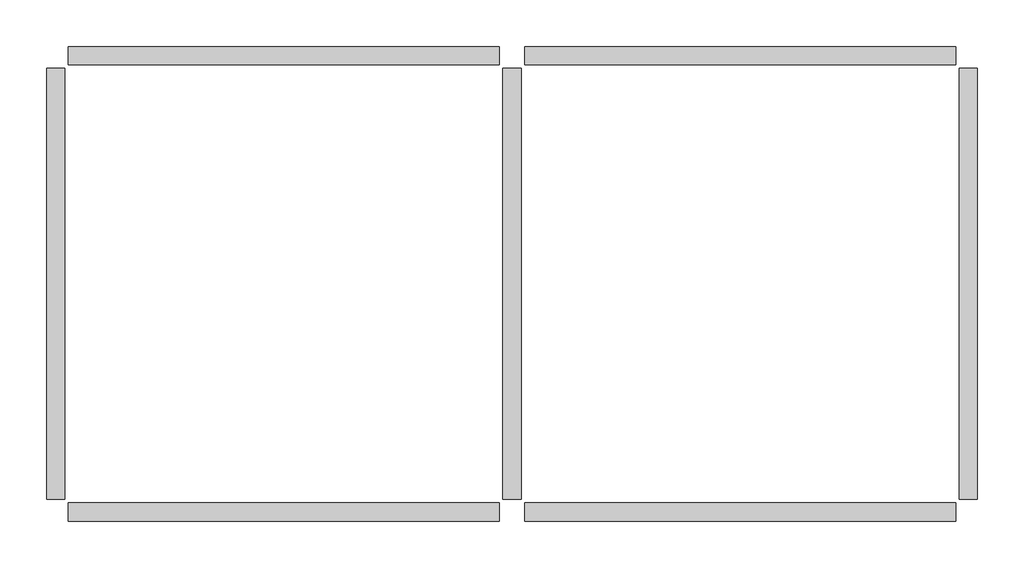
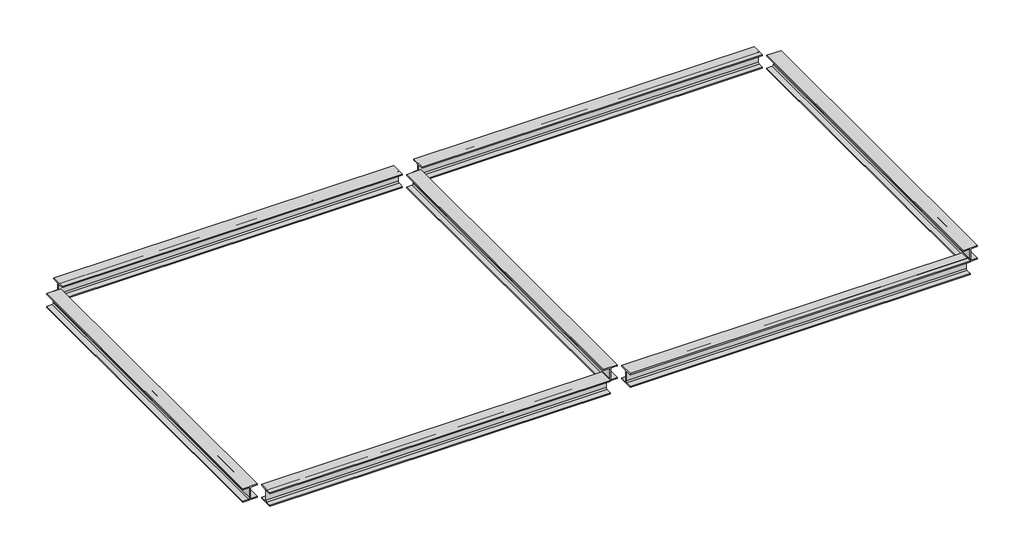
# One storey: 7 beams.
"""IFC4 building model written with IfcOpenShell, lengths in millimetres."""

import ifcopenshell
import ifcopenshell.guid

model = None  # the IFC model being written
_history = None  # IfcOwnerHistory: only IFC2X3 demands one
_inside = {}  # id of a spatial element -> (the spatial element, [elements in it])
_under = {}  # id of a project, library or spatial element -> (it, [spatial elements below it])
_declared = {}  # id of a project -> (the project, [libraries it declares])
_typed = {}  # id of a type object -> (the type object, [elements of that type])
_made_of = {}  # id of a material, layer set ... -> (it, [elements and type objects made of it])


def new_model(schema):
    """Start an empty IFC model of exactly this schema.

    Asked for "IFC4X3", IfcOpenShell would pick the latest addendum, in which some entities
    have other attributes; the version numbers below select the first issue.
    IFC2X3 requires an IfcOwnerHistory on every rooted entity: one is made here for all.
    """
    global model, _history
    if schema == "IFC4X3":
        model = ifcopenshell.file(schema_version=(4, 3, 0, 0))
    else:
        model = ifcopenshell.file(schema=schema)
    _inside.clear()
    _under.clear()
    _declared.clear()
    _typed.clear()
    _made_of.clear()
    _history = None
    if model.schema == "IFC2X3":
        org = make("IfcOrganization", Name="unknown")
        user = make(
            "IfcPersonAndOrganization",
            ThePerson=make("IfcPerson", FamilyName="unknown"),
            TheOrganization=org,
        )
        app = make(
            "IfcApplication",
            ApplicationDeveloper=org,
            Version="unknown",
            ApplicationFullName="unknown",
            ApplicationIdentifier="unknown",
        )
        _history = make(
            "IfcOwnerHistory",
            OwningUser=user,
            OwningApplication=app,
            ChangeAction="ADDED",
            CreationDate=0,
        )
    return model


def make(cls, **values):
    """One entity of the class cls with the attributes given. An attribute that is None is left unset."""
    return model.create_entity(
        cls, **{name: value for name, value in values.items() if value is not None}
    )


def rooted(cls, **values):
    """An entity with a GlobalId (a new one), such as an element, a storey or a relation."""
    return make(cls, GlobalId=ifcopenshell.guid.new(), OwnerHistory=_history, **values)


def si_unit(unit_type, name, prefix=None):
    """IfcSIUnit, for example si_unit("LENGTHUNIT", "METRE", prefix="MILLI")."""
    return make("IfcSIUnit", UnitType=unit_type, Prefix=prefix, Name=name)


def assignment(units):
    """IfcUnitAssignment: the units of a project."""
    return None if units is None else make("IfcUnitAssignment", Units=units)


def point(xyz):
    """IfcCartesianPoint."""
    return None if xyz is None else make("IfcCartesianPoint", Coordinates=xyz)


def direction(xyz):
    """IfcDirection."""
    return None if xyz is None else make("IfcDirection", DirectionRatios=xyz)


def frame(location, z_axis=None, x_axis=None):
    """IfcAxis2Placement3D, a coordinate frame: its origin and axes. An axis left out is left unset."""
    return make(
        "IfcAxis2Placement3D",
        Location=point(location),
        Axis=direction(z_axis),
        RefDirection=direction(x_axis),
    )


def frame_2d(location, x_axis=None):
    """IfcAxis2Placement2D, a coordinate frame in the plane: its origin and x axis."""
    return make(
        "IfcAxis2Placement2D", Location=point(location), RefDirection=direction(x_axis)
    )


def origin():
    """The frame at (0, 0, 0) with its axes left unset."""
    return frame((0.0, 0.0, 0.0))


def place(relative_to, where):
    """IfcLocalPlacement: puts the frame where relative to a parent placement (None: the world)."""
    return make(
        "IfcLocalPlacement", PlacementRelTo=relative_to, RelativePlacement=where
    )


def context(
    kind, dimensions, precision=None, world=None, true_north=None, identifier=None
):
    """IfcGeometricRepresentationContext, for example the 3D "Model" context."""
    return make(
        "IfcGeometricRepresentationContext",
        ContextIdentifier=identifier,
        ContextType=kind,
        CoordinateSpaceDimension=dimensions,
        Precision=precision,
        WorldCoordinateSystem=world,
        TrueNorth=true_north,
    )


def project(units=None, contexts=None):
    """IfcProject with its units and contexts."""
    return rooted(
        "IfcProject",
        Name="project",
        RepresentationContexts=contexts,
        UnitsInContext=assignment(units),
    )


def spatial(cls, under=None, at=None, **own):
    """A site, building, storey or space (cls), placed at a placement, below another one or the project."""
    s = rooted(cls, ObjectPlacement=at, **own)
    if under is not None:
        _under.setdefault(under.id(), (under, []))[1].append(s)
    return s


def polyline(points):
    """IfcPolyline through the points."""
    return make("IfcPolyline", Points=[point(p) for p in points])


def circle_curve(where, radius):
    """IfcCircle in the frame where."""
    return make("IfcCircle", Position=where, Radius=radius)


def trimmed(basis, trim1, trim2, sense, master):
    """IfcTrimmedCurve: the piece of a basis curve between two trims."""
    return make(
        "IfcTrimmedCurve",
        BasisCurve=basis,
        Trim1=trim1,
        Trim2=trim2,
        SenseAgreement=sense,
        MasterRepresentation=master,
    )


def segment(curve, same_sense, transition):
    """IfcCompositeCurveSegment."""
    return make(
        "IfcCompositeCurveSegment",
        Transition=transition,
        SameSense=same_sense,
        ParentCurve=curve,
    )


def composite_curve(segments, self_intersect=None):
    """IfcCompositeCurve: segments joined end to end."""
    return make("IfcCompositeCurve", Segments=segments, SelfIntersect=self_intersect)


def outline(outer, holes=None, kind="AREA"):
    """IfcArbitraryClosedProfileDef: a profile drawn as a closed curve; with holes, ...WithVoids."""
    if holes is None:
        return make("IfcArbitraryClosedProfileDef", ProfileType=kind, OuterCurve=outer)
    return make(
        "IfcArbitraryProfileDefWithVoids",
        ProfileType=kind,
        OuterCurve=outer,
        InnerCurves=holes,
    )


def extrude(swept, where, along, depth):
    """IfcExtrudedAreaSolid: the profile swept, set in the frame where, extruded along a direction by depth."""
    return make(
        "IfcExtrudedAreaSolid",
        SweptArea=swept,
        Position=where,
        ExtrudedDirection=direction(along),
        Depth=depth,
    )


def shape(context_of_items, identifier, shape_type, items):
    """IfcShapeRepresentation: the items that make up one representation, for example the "Body"."""
    return make(
        "IfcShapeRepresentation",
        ContextOfItems=context_of_items,
        RepresentationIdentifier=identifier,
        RepresentationType=shape_type,
        Items=items,
    )


def source(mapping_origin, context_of_items, identifier, shape_type, items):
    """IfcRepresentationMap: a shape defined once, which mapped items show again and again."""
    return make(
        "IfcRepresentationMap",
        MappingOrigin=mapping_origin,
        MappedRepresentation=shape(context_of_items, identifier, shape_type, items),
    )


def transform(
    local_origin,
    x_axis=None,
    y_axis=None,
    z_axis=None,
    scale=None,
    scale2=None,
    scale3=None,
    uniform=True,
):
    """IfcCartesianTransformationOperator3D, or its non-uniform kind. x_axis, y_axis, z_axis: its Axis1, 2, 3."""
    if uniform:
        return make(
            "IfcCartesianTransformationOperator3D",
            Axis1=direction(x_axis),
            Axis2=direction(y_axis),
            LocalOrigin=point(local_origin),
            Scale=scale,
            Axis3=direction(z_axis),
        )
    return make(
        "IfcCartesianTransformationOperator3DnonUniform",
        Axis1=direction(x_axis),
        Axis2=direction(y_axis),
        LocalOrigin=point(local_origin),
        Scale=scale,
        Axis3=direction(z_axis),
        Scale2=scale2,
        Scale3=scale3,
    )


def mapped(mapping_source, mapping_target):
    """IfcMappedItem: shows the shape of a source again, moved by a transform."""
    return make(
        "IfcMappedItem", MappingSource=mapping_source, MappingTarget=mapping_target
    )


def made_of(thing, what):
    """Note that an element or type object is made of a material, layer set ...; save() writes the relation."""
    if what is not None:
        _made_of.setdefault(what.id(), (what, []))[1].append(thing)
    return thing


def element(
    cls,
    number,
    at=None,
    inside=None,
    cuts=None,
    type_object=None,
    material=None,
    context=None,
    identifier="Body",
    shape_type=None,
    held_by="IfcProductDefinitionShape",
    body=None,
    shapes=None,
    **own,
):
    """One element of the class cls, such as IfcWall. Its Tag is "e" and its number.

    at: its placement. inside: the storey or other place that contains it. cuts: it is an
    opening in that element (IfcRelVoidsElement). A single representation is given by context,
    identifier, shape_type and body (its items); several are given by shapes. held_by: the class
    of the entity that holds the representations. save() writes the other relations.
    """
    e = rooted(cls, Tag="e%d" % number, ObjectPlacement=at, **own)
    if body is not None:
        shapes = [shape(context, identifier, shape_type, body)]
    if shapes is not None:
        e.Representation = make(held_by, Representations=shapes)
    if inside is not None:
        _inside.setdefault(inside.id(), (inside, []))[1].append(e)
    if cuts is not None:
        rooted(
            "IfcRelVoidsElement", RelatingBuildingElement=cuts, RelatedOpeningElement=e
        )
    if type_object is not None:
        _typed.setdefault(type_object.id(), (type_object, []))[1].append(e)
    return made_of(e, material)


def aggregate(whole, parts):
    """IfcRelAggregates: a whole, such as a stair, and the parts it consists of."""
    return rooted("IfcRelAggregates", RelatingObject=whole, RelatedObjects=parts)


def save(model, path):
    """Write the relations noted so far, then the file.

    IfcRelAggregates (storeys below a building ...), IfcRelContainedInSpatialStructure (elements
    in a storey), IfcRelDefinesByType, IfcRelAssociatesMaterial and IfcRelDeclares: one each for
    every whole, place, type object, material and project.
    """
    for whole, parts in _under.values():
        aggregate(whole, parts)
    for where, things in _inside.values():
        rooted(
            "IfcRelContainedInSpatialStructure",
            RelatedElements=things,
            RelatingStructure=where,
        )
    for kind, things in _typed.values():
        rooted("IfcRelDefinesByType", RelatedObjects=things, RelatingType=kind)
    for what, things in _made_of.values():
        rooted("IfcRelAssociatesMaterial", RelatedObjects=things, RelatingMaterial=what)
    for by, libraries in _declared.values():
        rooted("IfcRelDeclares", RelatingContext=by, RelatedDefinitions=libraries)
    model.write(path)


def heb200_d26bcb9a(model_context):
    return source(origin(), model_context, "Body", "SweptSolid", [
        extrude(outline(composite_curve([segment(polyline([(100.0, -85.0), (100.0, -100.0), (-100.0, -100.0), (-100.0, -85.0), (-22.5, -85.0)]), True, "CONTINUOUS"), segment(trimmed(circle_curve(frame_2d((-22.5, -67.0)), 18.0), [point((-22.5, -85.0))], [point((-4.5, -67.0))], True, "CARTESIAN"), True, "CONTINUOUS"), segment(polyline([(-4.5, -67.0), (-4.5, 67.0)]), True, "CONTINUOUS"), segment(trimmed(circle_curve(frame_2d((-22.5, 67.0)), 18.0), [point((-4.5, 67.0))], [point((-22.5, 85.0))], True, "CARTESIAN"), True, "CONTINUOUS"), segment(polyline([(-22.5, 85.0), (-100.0, 85.0), (-100.0, 100.0), (100.0, 100.0), (100.0, 85.0), (22.5, 85.0)]), True, "CONTINUOUS"), segment(trimmed(circle_curve(frame_2d((22.5, 67.0)), 18.0), [point((22.5, 85.0))], [point((4.5, 67.0))], True, "CARTESIAN"), True, "CONTINUOUS"), segment(polyline([(4.5, 67.0), (4.5, -67.0)]), True, "CONTINUOUS"), segment(trimmed(circle_curve(frame_2d((22.5, -67.0)), 18.0), [point((4.5, -67.0))], [point((22.5, -85.0))], True, "CARTESIAN"), True, "CONTINUOUS"), segment(polyline([(22.5, -85.0), (100.0, -85.0)]), True, "CONTINUOUS")], self_intersect=False)), frame((-2362.3, 0.0, 0.0), z_axis=(1.0, 0.0, 0.0), x_axis=(0.0, 1.0, 0.0)), (0.0, 0.0, 1.0), 4724.6),
    ])


model = new_model("IFC4")

# Units and contexts
model_context = context("Model", 3, world=origin())
ifc_project = project(units=[si_unit("LENGTHUNIT", "METRE", prefix="MILLI")], contexts=[model_context])

# Site, building, storey
site = spatial("IfcSite", under=ifc_project)
building = spatial("IfcBuilding", under=site)
storey = spatial("IfcBuildingStorey", under=building, Name="R階", Elevation=7400.0)

# Beams
placement = place(None, origin())
heb200_shape = heb200_d26bcb9a(model_context)
element("IfcBeam", 1, ObjectType="HE-B : HEB200", at=placement, inside=storey, context=model_context, shape_type="MappedRepresentation", body=[
    mapped(heb200_shape, transform((-5047.3880564, 86.0382733, 7150.0), x_axis=(0.0, -1.0, 0.0), y_axis=(1.0, 0.0, 0.0), z_axis=(0.0, 0.0, 1.0))),
])
element("IfcBeam", 2, ObjectType="HE-B : HEB200", at=placement, inside=storey, context=model_context, shape_type="MappedRepresentation", body=[
    mapped(heb200_shape, transform((-47.3880564, 86.0382733, 7150.0), x_axis=(0.0, -1.0, 0.0), y_axis=(1.0, 0.0, 0.0), z_axis=(0.0, 0.0, 1.0))),
])
element("IfcBeam", 3, ObjectType="HE-B : HEB200", at=placement, inside=storey, context=model_context, shape_type="MappedRepresentation", body=[
    mapped(heb200_shape, transform((4952.6119436, 86.0382733, 7150.0), x_axis=(0.0, -1.0, 0.0), y_axis=(1.0, 0.0, 0.0), z_axis=(0.0, 0.0, 1.0))),
])
element("IfcBeam", 4, ObjectType="HE-B : HEB200", at=placement, inside=storey, context=model_context, shape_type="MappedRepresentation", body=[
    mapped(heb200_shape, transform((2452.6119436, -2413.9617267, 7150.0), x_axis=(-1.0, 0.0, 0.0), y_axis=(0.0, -1.0, 0.0), z_axis=(0.0, 0.0, 1.0))),
])
element("IfcBeam", 5, ObjectType="HE-B : HEB200", at=placement, inside=storey, context=model_context, shape_type="MappedRepresentation", body=[
    mapped(heb200_shape, transform((-2547.3880564, -2413.9617267, 7150.0), x_axis=(-1.0, 0.0, 0.0), y_axis=(0.0, -1.0, 0.0), z_axis=(0.0, 0.0, 1.0))),
])
element("IfcBeam", 6, ObjectType="HE-B : HEB200", at=placement, inside=storey, context=model_context, shape_type="MappedRepresentation", body=[
    mapped(heb200_shape, transform((2452.6119436, 2586.0382733, 7150.0), x_axis=(-1.0, 0.0, 0.0), y_axis=(0.0, -1.0, 0.0), z_axis=(0.0, 0.0, 1.0))),
])
element("IfcBeam", 7, ObjectType="HE-B : HEB200", at=placement, inside=storey, context=model_context, shape_type="MappedRepresentation", body=[
    mapped(heb200_shape, transform((-2547.3880564, 2586.0382733, 7150.0), x_axis=(-1.0, 0.0, 0.0), y_axis=(0.0, -1.0, 0.0), z_axis=(0.0, 0.0, 1.0))),
])

save(model, "model.ifc")
